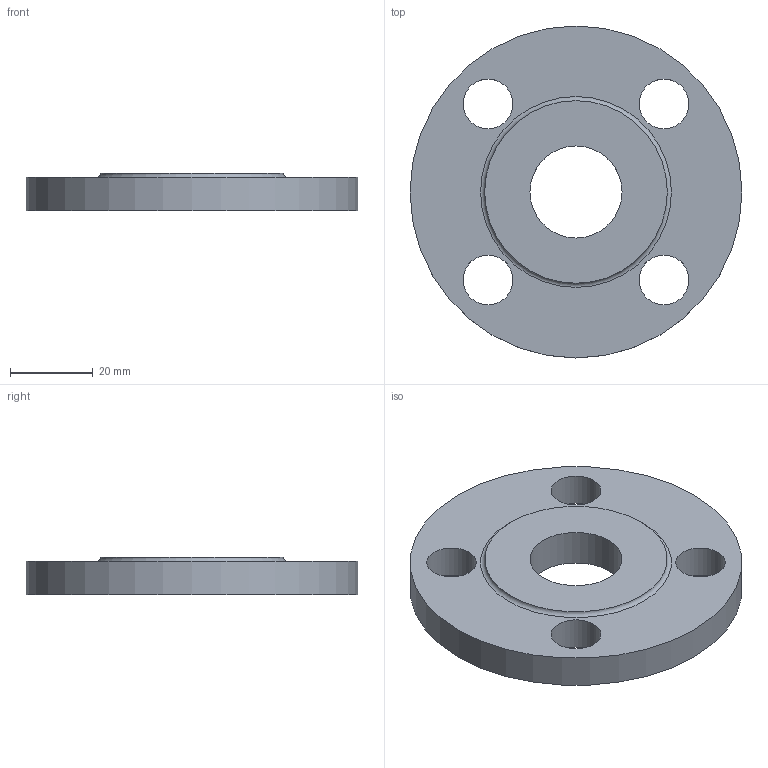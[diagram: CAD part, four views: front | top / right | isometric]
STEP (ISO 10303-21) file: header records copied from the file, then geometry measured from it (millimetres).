
FILE_DESCRIPTION(/* description */ (''),/* implementation_level */ '2;1');
FILE_NAME(/* name */ 'C:\Users\D\Documents\Inventor\HP\JIS\フランジ\JIS 5k sop rf\jis5k-sop-rf-15.stp',/* time_stamp */ '2024-09-12T17:03:06+09:00',/* author */ ('D'),/* organization */ (''),/* preprocessor_version */ 'ST-DEVELOPER v18',/* originating_system */ 'Autodesk Inventor 2020',/* authorisation */ '');
FILE_SCHEMA (('AUTOMOTIVE_DESIGN { 1 0 10303 214 3 1 1 }'));
Length unit declared in the file: millimetre
Products named in the file (1): jis5k-sop-rf-10
Bounding box: 80 x 80 x 9 mm (x, y, z)
Volume: 34660.1 mm3; surface area: 12298.2 mm2
Topology: 1 solids, 1 shells, 10 faces, 26 edges, 19 vertices
Faces by surface type: cylinder 6, plane 3, torus 1
Full cylindrical faces by diameter (mm): 12 x4, 22.2 x1, 80 x1
Entity records: 391 total; most frequent: DIRECTION 68, CARTESIAN_POINT 56, ORIENTED_EDGE 52, AXIS2_PLACEMENT_3D 31, EDGE_CURVE 26, EDGE_LOOP 21, CIRCLE 20, VERTEX_POINT 19
